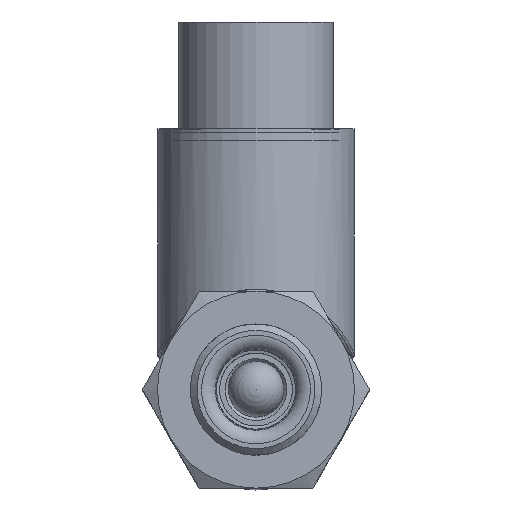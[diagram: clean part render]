
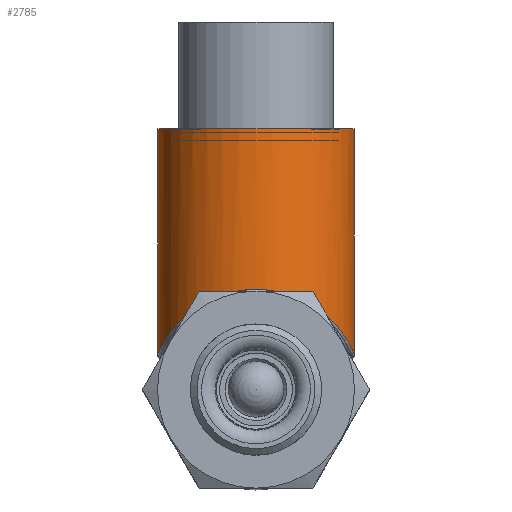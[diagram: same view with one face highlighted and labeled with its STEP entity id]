
A CAD part, top view. The second image highlights one B-rep face of the part: STEP entity #2785.
In plain terms, the highlighted cylindrical face has radius 9.525 mm (diameter 19.05 mm), a full revolution.
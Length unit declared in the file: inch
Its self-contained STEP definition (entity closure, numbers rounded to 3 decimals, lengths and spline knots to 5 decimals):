
#70=B_SPLINE_CURVE_WITH_KNOTS('',3,(#6611,#6612,#6613,#6614,#6615,#6616,
#6617,#6618,#6619,#6620,#6621,#6622,#6623,#6624,#6625,#6626,#6627,#6628,
#6629,#6630,#6631,#6632,#6633,#6634,#6635,#6636,#6637,#6638,#6639,#6640,
#6641),.UNSPECIFIED.,.F.,.F.,(4,1,1,1,1,1,1,1,1,1,1,1,1,1,1,1,1,1,1,1,1,
1,1,1,1,1,1,1,4),(-9.63701,-9.40756,-9.17811,
-8.7192,-8.41326,-8.26029,-8.10733,
-8.03084,-7.95436,-7.80139,-7.49545,
-7.18952,-6.88358,-6.57764,-6.27171,
-5.96577,-5.65983,-5.35389,-5.04796,-4.89499,
-4.81851,-4.74202,-4.58905,-4.43608,
-4.3596,-4.13015,-3.67124,-3.44179,
-3.21234),.UNSPECIFIED.);
#316=FACE_OUTER_BOUND('',#524,.T.);
#524=EDGE_LOOP('',(#1964,#1965,#1966,#1967));
#718=LINE('',#6691,#848);
#848=VECTOR('',#3703,0.375);
#1017=CIRCLE('',#3174,0.375);
#1216=VERTEX_POINT('',#6577);
#1220=VERTEX_POINT('',#6690);
#1490=EDGE_CURVE('',#1216,#1216,#70,.T.);
#1493=EDGE_CURVE('',#1220,#1216,#718,.T.);
#1494=EDGE_CURVE('',#1220,#1220,#1017,.T.);
#1964=ORIENTED_EDGE('',*,*,#1493,.F.);
#1965=ORIENTED_EDGE('',*,*,#1494,.F.);
#1966=ORIENTED_EDGE('',*,*,#1493,.T.);
#1967=ORIENTED_EDGE('',*,*,#1490,.F.);
#2501=CYLINDRICAL_SURFACE('',#3173,0.375);
#2785=ADVANCED_FACE('',(#316),#2501,.T.);
#3173=AXIS2_PLACEMENT_3D('',#6689,#3701,#3702);
#3174=AXIS2_PLACEMENT_3D('',#6692,#3704,#3705);
#3701=DIRECTION('center_axis',(0.,1.,0.));
#3702=DIRECTION('ref_axis',(0.,0.,1.));
#3703=DIRECTION('',(0.,-1.,0.));
#3704=DIRECTION('center_axis',(0.,1.,0.));
#3705=DIRECTION('ref_axis',(0.,0.,1.));
#6577=CARTESIAN_POINT('',(0.,0.3875,-1.31));
#6611=CARTESIAN_POINT('Ctrl Pts',(0.,0.3875,
-1.31));
#6612=CARTESIAN_POINT('Ctrl Pts',(0.03115,0.3875,
-1.31));
#6613=CARTESIAN_POINT('Ctrl Pts',(0.09334,0.38037,
-1.30214));
#6614=CARTESIAN_POINT('Ctrl Pts',(0.20461,0.34111,-1.25842));
#6615=CARTESIAN_POINT('Ctrl Pts',(0.29321,0.27238,-1.18028));
#6616=CARTESIAN_POINT('Ctrl Pts',(0.3437,0.20218,-1.09172));
#6617=CARTESIAN_POINT('Ctrl Pts',(0.36561,0.15994,-1.02434));
#6618=CARTESIAN_POINT('Ctrl Pts',(0.37367,0.14038,-0.97654));
#6619=CARTESIAN_POINT('Ctrl Pts',(0.37544,0.13579,-0.935));
#6620=CARTESIAN_POINT('Ctrl Pts',(0.37368,0.14033,-0.89338));
#6621=CARTESIAN_POINT('Ctrl Pts',(0.36229,0.16812,-0.82673));
#6622=CARTESIAN_POINT('Ctrl Pts',(0.32972,0.22602,-0.74722));
#6623=CARTESIAN_POINT('Ctrl Pts',(0.26718,0.29408,-0.66479));
#6624=CARTESIAN_POINT('Ctrl Pts',(0.17866,0.35267,-0.5987));
#6625=CARTESIAN_POINT('Ctrl Pts',(0.06404,0.38892,
-0.55839));
#6626=CARTESIAN_POINT('Ctrl Pts',(-0.06403,0.38897,
-0.55835));
#6627=CARTESIAN_POINT('Ctrl Pts',(-0.1787,0.35264,
-0.59871));
#6628=CARTESIAN_POINT('Ctrl Pts',(-0.26715,0.29415,
-0.66479));
#6629=CARTESIAN_POINT('Ctrl Pts',(-0.32975,0.22598,-0.74725));
#6630=CARTESIAN_POINT('Ctrl Pts',(-0.36229,0.1681,
-0.82673));
#6631=CARTESIAN_POINT('Ctrl Pts',(-0.37368,0.14034,
-0.89342));
#6632=CARTESIAN_POINT('Ctrl Pts',(-0.37544,0.1358,
-0.93503));
#6633=CARTESIAN_POINT('Ctrl Pts',(-0.37367,0.14038,
-0.97657));
#6634=CARTESIAN_POINT('Ctrl Pts',(-0.36558,0.15998,
-1.02435));
#6635=CARTESIAN_POINT('Ctrl Pts',(-0.35196,0.18625,
-1.06644));
#6636=CARTESIAN_POINT('Ctrl Pts',(-0.33101,0.21986,
-1.11392));
#6637=CARTESIAN_POINT('Ctrl Pts',(-0.28645,0.27754,
-1.18622));
#6638=CARTESIAN_POINT('Ctrl Pts',(-0.20458,0.34119,
-1.25847));
#6639=CARTESIAN_POINT('Ctrl Pts',(-0.09335,0.38033,
-1.3021));
#6640=CARTESIAN_POINT('Ctrl Pts',(-0.03115,0.3875,
-1.31));
#6641=CARTESIAN_POINT('Ctrl Pts',(0.,0.3875,
-1.31));
#6689=CARTESIAN_POINT('Origin',(0.,0.47,
-0.935));
#6690=CARTESIAN_POINT('',(0.,1.,-1.31));
#6691=CARTESIAN_POINT('',(0.,0.47,-1.31));
#6692=CARTESIAN_POINT('Origin',(0.,1.,
-0.935));
